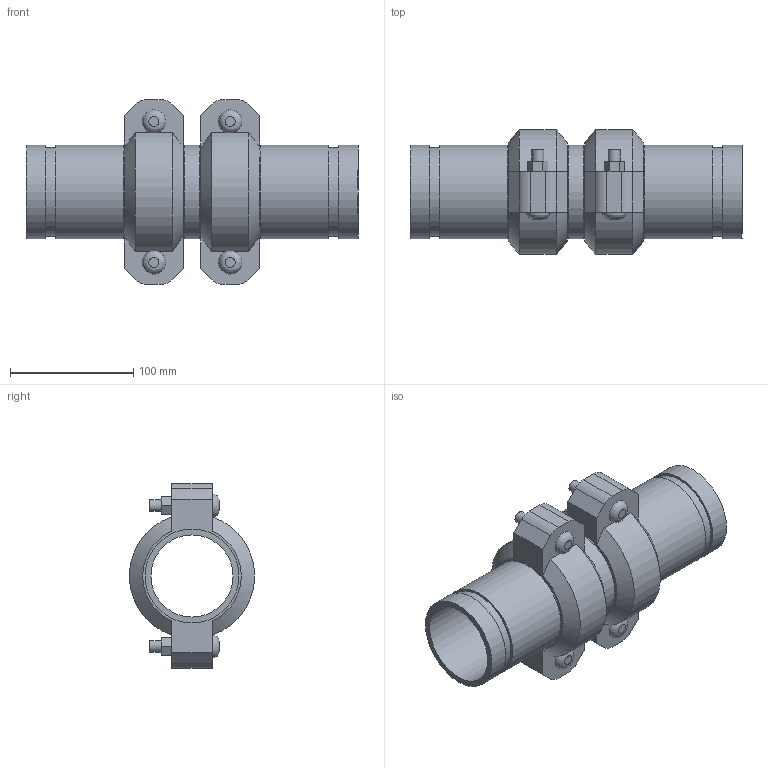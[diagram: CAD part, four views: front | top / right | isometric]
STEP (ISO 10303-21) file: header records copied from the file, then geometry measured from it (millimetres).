
FILE_DESCRIPTION(/* description */ ('VIC EXPANSION JOINT 2 COUPLINGS EXPANDED STYLE 155 (OGS)','CAx-IF Rec.Pracs.---Representation and Presentation of Product Manufacturing Information (PMI)---4.0---2014-10-13'),/* implementation_level */ '2;1');
FILE_NAME(/* name */ 'C:\Users\kkamble\AppData\Roaming\Autodesk\ApplicationPlugins\Victaulic.Temp\A706\Victaulic_IPS_Expansion Joint_Expanded_2 Couplings_Style 155 (OGS)_02.5 (76.1) (65).stp',/* time_stamp */ '2021-06-26T23:56:21+02:00',/* author */ ('kkamble'),/* organization */ ('Victaulic'),/* preprocessor_version */ 'ST-DEVELOPER v17.2',/* originating_system */ 'Autodesk Inventor 2019',/* authorisation */ '');
FILE_SCHEMA (('AP242_MANAGED_MODEL_BASED_3D_ENGINEERING_MIM_LF { 1 0 10303 442 1 1 4 }'));
Length unit declared in the file: inch
Products named in the file (4): 155-02.5 (76.1); Nipple-02.5 (76.1); Nipple-02.5 (76.1)_1; 075-02.5 (76.1)
Assembly tree (5 placements, depth 2):
  155-02.5 (76.1)
    Nipple-02.5 (76.1)  x2
    Nipple-02.5 (76.1)_1
    075-02.5 (76.1)  x2
Bounding box: 269.49 x 101.25 x 149.86 mm (x, y, z)
Volume: 705682.5 mm3; surface area: 221665.3 mm2
Topology: 5 solids, 9 shells, 150 faces, 364 edges, 256 vertices
Faces by surface type: plane 90, cylinder 48, cone 8, bspline 4
Full cylindrical faces by diameter (mm): 9.525 x8, 11.43 x4, 66.65 x3, 69.85 x2, 72.263 x6, 76.2 x13
Entity records: 2803 total; most frequent: CARTESIAN_POINT 521, DIRECTION 455, ORIENTED_EDGE 394, EDGE_CURVE 197, AXIS2_PLACEMENT_3D 180, VERTEX_POINT 140, EDGE_LOOP 105, LINE 95
